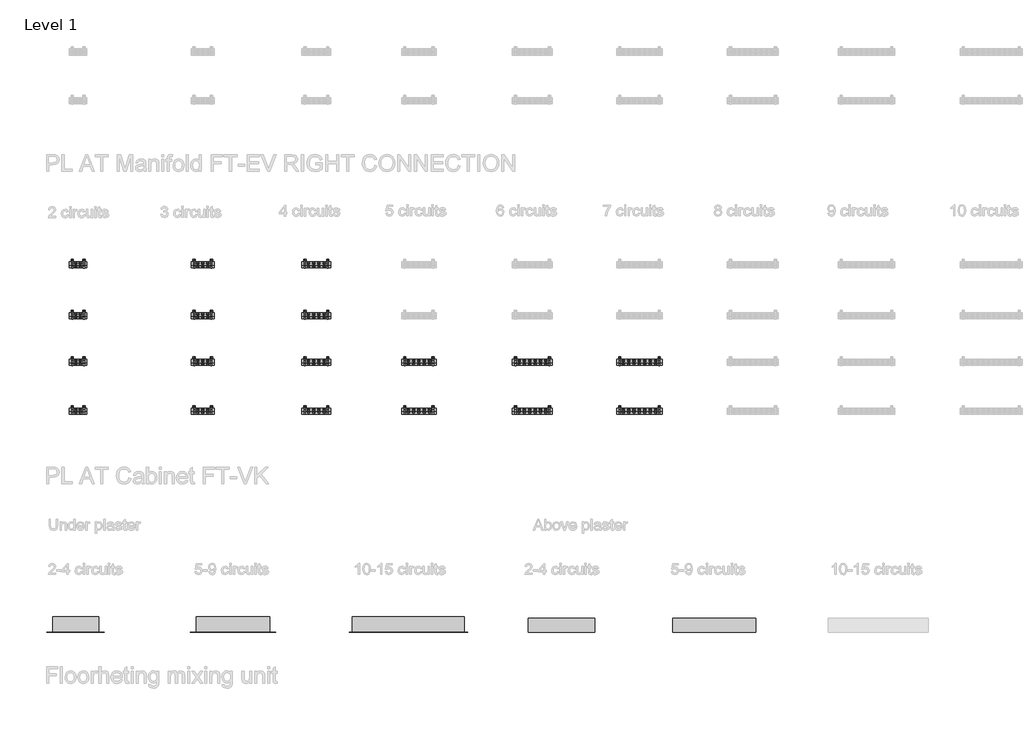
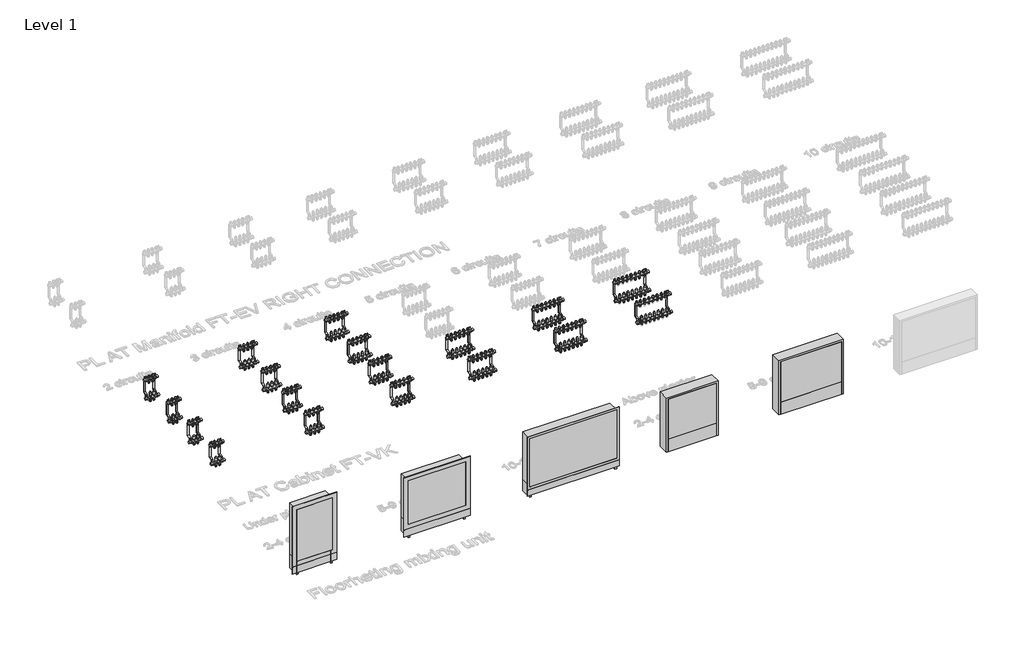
# One storey, part 1 of 23: 124 pipe fittings, 23 valves.
"""IFC4 building model written with IfcOpenShell, lengths in millimetres."""

from ifc_helpers import new_model, si_unit, origin, place, context, project, spatial, transform, mapped, element, save
from components import pipe_fitting_03c6499f, valve_7f0c1a37, valve_5e9e6dc7, valve_06e325c5, valve_a29cd3ca, valve_0794a25a, valve_64aa8ca1, valve_0c7f9d95, valve_02e7046f, valve_ee085975, valve_4b47ae93, valve_6665bde7, valve_1ec624e3, valve_313b45f7, valve_5bd855b2, valve_9806339d

model = new_model("IFC4")

# Units and contexts
model_context = context("Model", 3, world=origin())
ifc_project = project(units=[si_unit("LENGTHUNIT", "METRE", prefix="MILLI")], contexts=[model_context])

# Site, building, storey
site = spatial("IfcSite", under=ifc_project)
building = spatial("IfcBuilding", under=site)
storey = spatial("IfcBuildingStorey", under=building, Name="Level 1", Elevation=0.0)

# Pipe fittings
placement = place(None, origin())
pipe_fitting_shape = pipe_fitting_03c6499f(model_context)
element("IfcPipeFitting", 1, ObjectType="Euroconus screwing for multilayer pipes - Manifold FT : Euroconus screwing for multilayer pipes - Manifold FT", at=placement, inside=storey, context=model_context, shape_type="MappedRepresentation", body=[
    mapped(pipe_fitting_shape, transform((1334.9796862, -1164.6959314, 62.88733), x_axis=(0.0, 0.0, -1.0), y_axis=(0.0, 1.0000000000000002, 0.0), z_axis=(1.0000000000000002, 0.0, 0.0))),
])
element("IfcPipeFitting", 2, ObjectType="Euroconus screwing for multilayer pipes - Manifold FT : Euroconus screwing for multilayer pipes - Manifold FT", at=placement, inside=storey, context=model_context, shape_type="MappedRepresentation", body=[
    mapped(pipe_fitting_shape, transform((1334.9796862, -1139.6959314, 272.88733), x_axis=(0.0, 0.0, -1.0), y_axis=(0.0, 1.0000000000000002, 0.0), z_axis=(1.0000000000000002, 0.0, 0.0))),
])
element("IfcPipeFitting", 3, ObjectType="Euroconus screwing for multilayer pipes - Manifold FT : Euroconus screwing for multilayer pipes - Manifold FT", at=placement, inside=storey, context=model_context, shape_type="MappedRepresentation", body=[
    mapped(pipe_fitting_shape, transform((1292.9796862, -1164.6959314, 62.88733), x_axis=(0.0, 0.0, -1.0), y_axis=(0.0, 1.0000000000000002, 0.0), z_axis=(1.0000000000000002, 0.0, 0.0))),
])
element("IfcPipeFitting", 4, ObjectType="Euroconus screwing for multilayer pipes - Manifold FT : Euroconus screwing for multilayer pipes - Manifold FT", at=placement, inside=storey, context=model_context, shape_type="MappedRepresentation", body=[
    mapped(pipe_fitting_shape, transform((1292.9796862, -1139.6959314, 272.88733), x_axis=(0.0, 0.0, -1.0), y_axis=(0.0, 1.0000000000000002, 0.0), z_axis=(1.0000000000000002, 0.0, 0.0))),
])
element("IfcPipeFitting", 5, ObjectType="Euroconus screwing for multilayer pipes - Manifold FT : Euroconus screwing for multilayer pipes - Manifold FT", at=placement, inside=storey, context=model_context, shape_type="MappedRepresentation", body=[
    mapped(pipe_fitting_shape, transform((2438.9796862, -1164.6959314, 62.88733), x_axis=(0.0, 0.0, -1.0), y_axis=(0.0, 1.0000000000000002, 0.0), z_axis=(1.0000000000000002, 0.0, 0.0))),
])
element("IfcPipeFitting", 6, ObjectType="Euroconus screwing for multilayer pipes - Manifold FT : Euroconus screwing for multilayer pipes - Manifold FT", at=placement, inside=storey, context=model_context, shape_type="MappedRepresentation", body=[
    mapped(pipe_fitting_shape, transform((2484.9796862, -1164.6959314, 62.88733), x_axis=(0.0, 0.0, -1.0), y_axis=(0.0, 1.0000000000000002, 0.0), z_axis=(1.0000000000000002, 0.0, 0.0))),
])
element("IfcPipeFitting", 7, ObjectType="Euroconus screwing for multilayer pipes - Manifold FT : Euroconus screwing for multilayer pipes - Manifold FT", at=placement, inside=storey, context=model_context, shape_type="MappedRepresentation", body=[
    mapped(pipe_fitting_shape, transform((2438.9796862, -1139.6959314, 272.88733), x_axis=(0.0, 0.0, -1.0), y_axis=(0.0, 1.0000000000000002, 0.0), z_axis=(1.0000000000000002, 0.0, 0.0))),
])
element("IfcPipeFitting", 8, ObjectType="Euroconus screwing for multilayer pipes - Manifold FT : Euroconus screwing for multilayer pipes - Manifold FT", at=placement, inside=storey, context=model_context, shape_type="MappedRepresentation", body=[
    mapped(pipe_fitting_shape, transform((2484.9796862, -1139.6959314, 272.88733), x_axis=(0.0, 0.0, -1.0), y_axis=(0.0, 1.0000000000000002, 0.0), z_axis=(1.0000000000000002, 0.0, 0.0))),
])
element("IfcPipeFitting", 9, ObjectType="Euroconus screwing for multilayer pipes - Manifold FT : Euroconus screwing for multilayer pipes - Manifold FT", at=placement, inside=storey, context=model_context, shape_type="MappedRepresentation", body=[
    mapped(pipe_fitting_shape, transform((2392.9796862, -1164.6959314, 62.88733), x_axis=(0.0, 0.0, -1.0), y_axis=(0.0, 1.0000000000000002, 0.0), z_axis=(1.0000000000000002, 0.0, 0.0))),
])
element("IfcPipeFitting", 10, ObjectType="Euroconus screwing for multilayer pipes - Manifold FT : Euroconus screwing for multilayer pipes - Manifold FT", at=placement, inside=storey, context=model_context, shape_type="MappedRepresentation", body=[
    mapped(pipe_fitting_shape, transform((2392.9796862, -1139.6959314, 272.88733), x_axis=(0.0, 0.0, -1.0), y_axis=(0.0, 1.0000000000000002, 0.0), z_axis=(1.0000000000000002, 0.0, 0.0))),
])
element("IfcPipeFitting", 11, ObjectType="Euroconus screwing for multilayer pipes - Manifold FT : Euroconus screwing for multilayer pipes - Manifold FT", at=placement, inside=storey, context=model_context, shape_type="MappedRepresentation", body=[
    mapped(pipe_fitting_shape, transform((3487.6463528, -1164.6959314, 62.88733), x_axis=(0.0, 0.0, -1.0), y_axis=(0.0, 1.0000000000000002, 0.0), z_axis=(1.0000000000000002, 0.0, 0.0))),
])
element("IfcPipeFitting", 12, ObjectType="Euroconus screwing for multilayer pipes - Manifold FT : Euroconus screwing for multilayer pipes - Manifold FT", at=placement, inside=storey, context=model_context, shape_type="MappedRepresentation", body=[
    mapped(pipe_fitting_shape, transform((3440.3130195, -1164.6959314, 62.88733), x_axis=(0.0, 0.0, -1.0), y_axis=(0.0, 1.0000000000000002, 0.0), z_axis=(1.0000000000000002, 0.0, 0.0))),
])
element("IfcPipeFitting", 13, ObjectType="Euroconus screwing for multilayer pipes - Manifold FT : Euroconus screwing for multilayer pipes - Manifold FT", at=placement, inside=storey, context=model_context, shape_type="MappedRepresentation", body=[
    mapped(pipe_fitting_shape, transform((3534.9796862, -1164.6959314, 62.88733), x_axis=(0.0, 0.0, -1.0), y_axis=(0.0, 1.0000000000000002, 0.0), z_axis=(1.0000000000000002, 0.0, 0.0))),
])
element("IfcPipeFitting", 14, ObjectType="Euroconus screwing for multilayer pipes - Manifold FT : Euroconus screwing for multilayer pipes - Manifold FT", at=placement, inside=storey, context=model_context, shape_type="MappedRepresentation", body=[
    mapped(pipe_fitting_shape, transform((3487.6463528, -1139.6959314, 272.88733), x_axis=(0.0, 0.0, -1.0), y_axis=(0.0, 1.0000000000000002, 0.0), z_axis=(1.0000000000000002, 0.0, 0.0))),
])
element("IfcPipeFitting", 15, ObjectType="Euroconus screwing for multilayer pipes - Manifold FT : Euroconus screwing for multilayer pipes - Manifold FT", at=placement, inside=storey, context=model_context, shape_type="MappedRepresentation", body=[
    mapped(pipe_fitting_shape, transform((3440.3130195, -1139.6959314, 272.88733), x_axis=(0.0, 0.0, -1.0), y_axis=(0.0, 1.0000000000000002, 0.0), z_axis=(1.0000000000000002, 0.0, 0.0))),
])
element("IfcPipeFitting", 16, ObjectType="Euroconus screwing for multilayer pipes - Manifold FT : Euroconus screwing for multilayer pipes - Manifold FT", at=placement, inside=storey, context=model_context, shape_type="MappedRepresentation", body=[
    mapped(pipe_fitting_shape, transform((3534.9796862, -1139.6959314, 272.88733), x_axis=(0.0, 0.0, -1.0), y_axis=(0.0, 1.0000000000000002, 0.0), z_axis=(1.0000000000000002, 0.0, 0.0))),
])
element("IfcPipeFitting", 17, ObjectType="Euroconus screwing for multilayer pipes - Manifold FT : Euroconus screwing for multilayer pipes - Manifold FT", at=placement, inside=storey, context=model_context, shape_type="MappedRepresentation", body=[
    mapped(pipe_fitting_shape, transform((3392.9796862, -1164.6959314, 62.88733), x_axis=(0.0, 0.0, -1.0), y_axis=(0.0, 1.0000000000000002, 0.0), z_axis=(1.0000000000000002, 0.0, 0.0))),
])
element("IfcPipeFitting", 18, ObjectType="Euroconus screwing for multilayer pipes - Manifold FT : Euroconus screwing for multilayer pipes - Manifold FT", at=placement, inside=storey, context=model_context, shape_type="MappedRepresentation", body=[
    mapped(pipe_fitting_shape, transform((3392.9796862, -1139.6959314, 272.88733), x_axis=(0.0, 0.0, -1.0), y_axis=(0.0, 1.0000000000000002, 0.0), z_axis=(1.0000000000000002, 0.0, 0.0))),
])
element("IfcPipeFitting", 19, ObjectType="Euroconus screwing for multilayer pipes - Manifold FT : Euroconus screwing for multilayer pipes - Manifold FT", at=placement, inside=storey, context=model_context, shape_type="MappedRepresentation", body=[
    mapped(pipe_fitting_shape, transform((1334.9796862, -1624.6959314, 62.88733), x_axis=(0.0, 0.0, -1.0), y_axis=(0.0, 1.0000000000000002, 0.0), z_axis=(1.0000000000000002, 0.0, 0.0))),
])
element("IfcPipeFitting", 20, ObjectType="Euroconus screwing for multilayer pipes - Manifold FT : Euroconus screwing for multilayer pipes - Manifold FT", at=placement, inside=storey, context=model_context, shape_type="MappedRepresentation", body=[
    mapped(pipe_fitting_shape, transform((1334.9796862, -1599.6959314, 272.88733), x_axis=(0.0, 0.0, -1.0), y_axis=(0.0, 1.0000000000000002, 0.0), z_axis=(1.0000000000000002, 0.0, 0.0))),
])
element("IfcPipeFitting", 21, ObjectType="Euroconus screwing for multilayer pipes - Manifold FT : Euroconus screwing for multilayer pipes - Manifold FT", at=placement, inside=storey, context=model_context, shape_type="MappedRepresentation", body=[
    mapped(pipe_fitting_shape, transform((1292.9796862, -1624.6959314, 62.88733), x_axis=(0.0, 0.0, -1.0), y_axis=(0.0, 1.0000000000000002, 0.0), z_axis=(1.0000000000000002, 0.0, 0.0))),
])
element("IfcPipeFitting", 22, ObjectType="Euroconus screwing for multilayer pipes - Manifold FT : Euroconus screwing for multilayer pipes - Manifold FT", at=placement, inside=storey, context=model_context, shape_type="MappedRepresentation", body=[
    mapped(pipe_fitting_shape, transform((1292.9796862, -1599.6959314, 272.88733), x_axis=(0.0, 0.0, -1.0), y_axis=(0.0, 1.0000000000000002, 0.0), z_axis=(1.0000000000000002, 0.0, 0.0))),
])
element("IfcPipeFitting", 23, ObjectType="Euroconus screwing for multilayer pipes - Manifold FT : Euroconus screwing for multilayer pipes - Manifold FT", at=placement, inside=storey, context=model_context, shape_type="MappedRepresentation", body=[
    mapped(pipe_fitting_shape, transform((2438.9796862, -1624.6959314, 62.88733), x_axis=(0.0, 0.0, -1.0), y_axis=(0.0, 1.0000000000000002, 0.0), z_axis=(1.0000000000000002, 0.0, 0.0))),
])
element("IfcPipeFitting", 24, ObjectType="Euroconus screwing for multilayer pipes - Manifold FT : Euroconus screwing for multilayer pipes - Manifold FT", at=placement, inside=storey, context=model_context, shape_type="MappedRepresentation", body=[
    mapped(pipe_fitting_shape, transform((2484.9796862, -1624.6959314, 62.88733), x_axis=(0.0, 0.0, -1.0), y_axis=(0.0, 1.0000000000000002, 0.0), z_axis=(1.0000000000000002, 0.0, 0.0))),
])
element("IfcPipeFitting", 25, ObjectType="Euroconus screwing for multilayer pipes - Manifold FT : Euroconus screwing for multilayer pipes - Manifold FT", at=placement, inside=storey, context=model_context, shape_type="MappedRepresentation", body=[
    mapped(pipe_fitting_shape, transform((2438.9796862, -1599.6959314, 272.88733), x_axis=(0.0, 0.0, -1.0), y_axis=(0.0, 1.0000000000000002, 0.0), z_axis=(1.0000000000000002, 0.0, 0.0))),
])
element("IfcPipeFitting", 26, ObjectType="Euroconus screwing for multilayer pipes - Manifold FT : Euroconus screwing for multilayer pipes - Manifold FT", at=placement, inside=storey, context=model_context, shape_type="MappedRepresentation", body=[
    mapped(pipe_fitting_shape, transform((2484.9796862, -1599.6959314, 272.88733), x_axis=(0.0, 0.0, -1.0), y_axis=(0.0, 1.0000000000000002, 0.0), z_axis=(1.0000000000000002, 0.0, 0.0))),
])
element("IfcPipeFitting", 27, ObjectType="Euroconus screwing for multilayer pipes - Manifold FT : Euroconus screwing for multilayer pipes - Manifold FT", at=placement, inside=storey, context=model_context, shape_type="MappedRepresentation", body=[
    mapped(pipe_fitting_shape, transform((2392.9796862, -1624.6959314, 62.88733), x_axis=(0.0, 0.0, -1.0), y_axis=(0.0, 1.0000000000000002, 0.0), z_axis=(1.0000000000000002, 0.0, 0.0))),
])
element("IfcPipeFitting", 28, ObjectType="Euroconus screwing for multilayer pipes - Manifold FT : Euroconus screwing for multilayer pipes - Manifold FT", at=placement, inside=storey, context=model_context, shape_type="MappedRepresentation", body=[
    mapped(pipe_fitting_shape, transform((2392.9796862, -1599.6959314, 272.88733), x_axis=(0.0, 0.0, -1.0), y_axis=(0.0, 1.0000000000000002, 0.0), z_axis=(1.0000000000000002, 0.0, 0.0))),
])
element("IfcPipeFitting", 29, ObjectType="Euroconus screwing for multilayer pipes - Manifold FT : Euroconus screwing for multilayer pipes - Manifold FT", at=placement, inside=storey, context=model_context, shape_type="MappedRepresentation", body=[
    mapped(pipe_fitting_shape, transform((3487.6463528, -1624.6959314, 62.88733), x_axis=(0.0, 0.0, -1.0), y_axis=(0.0, 1.0000000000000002, 0.0), z_axis=(1.0000000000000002, 0.0, 0.0))),
])
element("IfcPipeFitting", 30, ObjectType="Euroconus screwing for multilayer pipes - Manifold FT : Euroconus screwing for multilayer pipes - Manifold FT", at=placement, inside=storey, context=model_context, shape_type="MappedRepresentation", body=[
    mapped(pipe_fitting_shape, transform((3440.3130195, -1624.6959314, 62.88733), x_axis=(0.0, 0.0, -1.0), y_axis=(0.0, 1.0000000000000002, 0.0), z_axis=(1.0000000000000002, 0.0, 0.0))),
])
element("IfcPipeFitting", 31, ObjectType="Euroconus screwing for multilayer pipes - Manifold FT : Euroconus screwing for multilayer pipes - Manifold FT", at=placement, inside=storey, context=model_context, shape_type="MappedRepresentation", body=[
    mapped(pipe_fitting_shape, transform((3534.9796862, -1624.6959314, 62.88733), x_axis=(0.0, 0.0, -1.0), y_axis=(0.0, 1.0000000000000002, 0.0), z_axis=(1.0000000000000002, 0.0, 0.0))),
])
element("IfcPipeFitting", 32, ObjectType="Euroconus screwing for multilayer pipes - Manifold FT : Euroconus screwing for multilayer pipes - Manifold FT", at=placement, inside=storey, context=model_context, shape_type="MappedRepresentation", body=[
    mapped(pipe_fitting_shape, transform((3487.6463528, -1599.6959314, 272.88733), x_axis=(0.0, 0.0, -1.0), y_axis=(0.0, 1.0000000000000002, 0.0), z_axis=(1.0000000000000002, 0.0, 0.0))),
])
element("IfcPipeFitting", 33, ObjectType="Euroconus screwing for multilayer pipes - Manifold FT : Euroconus screwing for multilayer pipes - Manifold FT", at=placement, inside=storey, context=model_context, shape_type="MappedRepresentation", body=[
    mapped(pipe_fitting_shape, transform((3440.3130195, -1599.6959314, 272.88733), x_axis=(0.0, 0.0, -1.0), y_axis=(0.0, 1.0000000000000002, 0.0), z_axis=(1.0000000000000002, 0.0, 0.0))),
])
element("IfcPipeFitting", 34, ObjectType="Euroconus screwing for multilayer pipes - Manifold FT : Euroconus screwing for multilayer pipes - Manifold FT", at=placement, inside=storey, context=model_context, shape_type="MappedRepresentation", body=[
    mapped(pipe_fitting_shape, transform((3534.9796862, -1599.6959314, 272.88733), x_axis=(0.0, 0.0, -1.0), y_axis=(0.0, 1.0000000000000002, 0.0), z_axis=(1.0000000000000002, 0.0, 0.0))),
])
element("IfcPipeFitting", 35, ObjectType="Euroconus screwing for multilayer pipes - Manifold FT : Euroconus screwing for multilayer pipes - Manifold FT", at=placement, inside=storey, context=model_context, shape_type="MappedRepresentation", body=[
    mapped(pipe_fitting_shape, transform((3392.9796862, -1624.6959314, 62.88733), x_axis=(0.0, 0.0, -1.0), y_axis=(0.0, 1.0000000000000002, 0.0), z_axis=(1.0000000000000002, 0.0, 0.0))),
])
element("IfcPipeFitting", 36, ObjectType="Euroconus screwing for multilayer pipes - Manifold FT : Euroconus screwing for multilayer pipes - Manifold FT", at=placement, inside=storey, context=model_context, shape_type="MappedRepresentation", body=[
    mapped(pipe_fitting_shape, transform((3392.9796862, -1599.6959314, 272.88733), x_axis=(0.0, 0.0, -1.0), y_axis=(0.0, 1.0000000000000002, 0.0), z_axis=(1.0000000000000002, 0.0, 0.0))),
])
element("IfcPipeFitting", 37, ObjectType="Euroconus screwing for multilayer pipes - Manifold FT : Euroconus screwing for multilayer pipes - Manifold FT", at=placement, inside=storey, context=model_context, shape_type="MappedRepresentation", body=[
    mapped(pipe_fitting_shape, transform((1334.9796862, -2044.6959314, 62.88733), x_axis=(0.0, 0.0, -1.0), y_axis=(0.0, 1.0000000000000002, 0.0), z_axis=(1.0000000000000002, 0.0, 0.0))),
])
element("IfcPipeFitting", 38, ObjectType="Euroconus screwing for multilayer pipes - Manifold FT : Euroconus screwing for multilayer pipes - Manifold FT", at=placement, inside=storey, context=model_context, shape_type="MappedRepresentation", body=[
    mapped(pipe_fitting_shape, transform((1334.9796862, -2019.6959314, 272.88733), x_axis=(0.0, 0.0, -1.0), y_axis=(0.0, 1.0000000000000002, 0.0), z_axis=(1.0000000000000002, 0.0, 0.0))),
])
element("IfcPipeFitting", 39, ObjectType="Euroconus screwing for multilayer pipes - Manifold FT : Euroconus screwing for multilayer pipes - Manifold FT", at=placement, inside=storey, context=model_context, shape_type="MappedRepresentation", body=[
    mapped(pipe_fitting_shape, transform((1292.9796862, -2044.6959314, 62.88733), x_axis=(0.0, 0.0, -1.0), y_axis=(0.0, 1.0000000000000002, 0.0), z_axis=(1.0000000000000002, 0.0, 0.0))),
])
element("IfcPipeFitting", 40, ObjectType="Euroconus screwing for multilayer pipes - Manifold FT : Euroconus screwing for multilayer pipes - Manifold FT", at=placement, inside=storey, context=model_context, shape_type="MappedRepresentation", body=[
    mapped(pipe_fitting_shape, transform((1292.9796862, -2019.6959314, 272.88733), x_axis=(0.0, 0.0, -1.0), y_axis=(0.0, 1.0000000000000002, 0.0), z_axis=(1.0000000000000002, 0.0, 0.0))),
])
element("IfcPipeFitting", 41, ObjectType="Euroconus screwing for multilayer pipes - Manifold FT : Euroconus screwing for multilayer pipes - Manifold FT", at=placement, inside=storey, context=model_context, shape_type="MappedRepresentation", body=[
    mapped(pipe_fitting_shape, transform((2438.9796862, -2044.6959314, 62.88733), x_axis=(0.0, 0.0, -1.0), y_axis=(0.0, 1.0000000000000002, 0.0), z_axis=(1.0000000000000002, 0.0, 0.0))),
])
element("IfcPipeFitting", 42, ObjectType="Euroconus screwing for multilayer pipes - Manifold FT : Euroconus screwing for multilayer pipes - Manifold FT", at=placement, inside=storey, context=model_context, shape_type="MappedRepresentation", body=[
    mapped(pipe_fitting_shape, transform((2484.9796862, -2044.6959314, 62.88733), x_axis=(0.0, 0.0, -1.0), y_axis=(0.0, 1.0000000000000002, 0.0), z_axis=(1.0000000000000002, 0.0, 0.0))),
])
element("IfcPipeFitting", 43, ObjectType="Euroconus screwing for multilayer pipes - Manifold FT : Euroconus screwing for multilayer pipes - Manifold FT", at=placement, inside=storey, context=model_context, shape_type="MappedRepresentation", body=[
    mapped(pipe_fitting_shape, transform((2438.9796862, -2019.6959314, 272.88733), x_axis=(0.0, 0.0, -1.0), y_axis=(0.0, 1.0000000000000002, 0.0), z_axis=(1.0000000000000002, 0.0, 0.0))),
])
element("IfcPipeFitting", 44, ObjectType="Euroconus screwing for multilayer pipes - Manifold FT : Euroconus screwing for multilayer pipes - Manifold FT", at=placement, inside=storey, context=model_context, shape_type="MappedRepresentation", body=[
    mapped(pipe_fitting_shape, transform((2484.9796862, -2019.6959314, 272.88733), x_axis=(0.0, 0.0, -1.0), y_axis=(0.0, 1.0000000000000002, 0.0), z_axis=(1.0000000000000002, 0.0, 0.0))),
])
element("IfcPipeFitting", 45, ObjectType="Euroconus screwing for multilayer pipes - Manifold FT : Euroconus screwing for multilayer pipes - Manifold FT", at=placement, inside=storey, context=model_context, shape_type="MappedRepresentation", body=[
    mapped(pipe_fitting_shape, transform((2392.9796862, -2044.6959314, 62.88733), x_axis=(0.0, 0.0, -1.0), y_axis=(0.0, 1.0000000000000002, 0.0), z_axis=(1.0000000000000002, 0.0, 0.0))),
])
element("IfcPipeFitting", 46, ObjectType="Euroconus screwing for multilayer pipes - Manifold FT : Euroconus screwing for multilayer pipes - Manifold FT", at=placement, inside=storey, context=model_context, shape_type="MappedRepresentation", body=[
    mapped(pipe_fitting_shape, transform((2392.9796862, -2019.6959314, 272.88733), x_axis=(0.0, 0.0, -1.0), y_axis=(0.0, 1.0000000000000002, 0.0), z_axis=(1.0000000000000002, 0.0, 0.0))),
])
element("IfcPipeFitting", 47, ObjectType="Euroconus screwing for multilayer pipes - Manifold FT : Euroconus screwing for multilayer pipes - Manifold FT", at=placement, inside=storey, context=model_context, shape_type="MappedRepresentation", body=[
    mapped(pipe_fitting_shape, transform((3487.6463528, -2044.6959314, 62.88733), x_axis=(0.0, 0.0, -1.0), y_axis=(0.0, 1.0000000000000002, 0.0), z_axis=(1.0000000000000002, 0.0, 0.0))),
])
element("IfcPipeFitting", 48, ObjectType="Euroconus screwing for multilayer pipes - Manifold FT : Euroconus screwing for multilayer pipes - Manifold FT", at=placement, inside=storey, context=model_context, shape_type="MappedRepresentation", body=[
    mapped(pipe_fitting_shape, transform((3440.3130195, -2044.6959314, 62.88733), x_axis=(0.0, 0.0, -1.0), y_axis=(0.0, 1.0000000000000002, 0.0), z_axis=(1.0000000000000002, 0.0, 0.0))),
])
element("IfcPipeFitting", 49, ObjectType="Euroconus screwing for multilayer pipes - Manifold FT : Euroconus screwing for multilayer pipes - Manifold FT", at=placement, inside=storey, context=model_context, shape_type="MappedRepresentation", body=[
    mapped(pipe_fitting_shape, transform((3534.9796862, -2044.6959314, 62.88733), x_axis=(0.0, 0.0, -1.0), y_axis=(0.0, 1.0000000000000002, 0.0), z_axis=(1.0000000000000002, 0.0, 0.0))),
])
element("IfcPipeFitting", 50, ObjectType="Euroconus screwing for multilayer pipes - Manifold FT : Euroconus screwing for multilayer pipes - Manifold FT", at=placement, inside=storey, context=model_context, shape_type="MappedRepresentation", body=[
    mapped(pipe_fitting_shape, transform((3487.6463528, -2019.6959314, 272.88733), x_axis=(0.0, 0.0, -1.0), y_axis=(0.0, 1.0000000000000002, 0.0), z_axis=(1.0000000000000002, 0.0, 0.0))),
])
element("IfcPipeFitting", 51, ObjectType="Euroconus screwing for multilayer pipes - Manifold FT : Euroconus screwing for multilayer pipes - Manifold FT", at=placement, inside=storey, context=model_context, shape_type="MappedRepresentation", body=[
    mapped(pipe_fitting_shape, transform((3440.3130195, -2019.6959314, 272.88733), x_axis=(0.0, 0.0, -1.0), y_axis=(0.0, 1.0000000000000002, 0.0), z_axis=(1.0000000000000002, 0.0, 0.0))),
])
element("IfcPipeFitting", 52, ObjectType="Euroconus screwing for multilayer pipes - Manifold FT : Euroconus screwing for multilayer pipes - Manifold FT", at=placement, inside=storey, context=model_context, shape_type="MappedRepresentation", body=[
    mapped(pipe_fitting_shape, transform((3534.9796862, -2019.6959314, 272.88733), x_axis=(0.0, 0.0, -1.0), y_axis=(0.0, 1.0000000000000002, 0.0), z_axis=(1.0000000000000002, 0.0, 0.0))),
])
element("IfcPipeFitting", 53, ObjectType="Euroconus screwing for multilayer pipes - Manifold FT : Euroconus screwing for multilayer pipes - Manifold FT", at=placement, inside=storey, context=model_context, shape_type="MappedRepresentation", body=[
    mapped(pipe_fitting_shape, transform((3392.9796862, -2044.6959314, 62.88733), x_axis=(0.0, 0.0, -1.0), y_axis=(0.0, 1.0000000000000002, 0.0), z_axis=(1.0000000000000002, 0.0, 0.0))),
])
element("IfcPipeFitting", 54, ObjectType="Euroconus screwing for multilayer pipes - Manifold FT : Euroconus screwing for multilayer pipes - Manifold FT", at=placement, inside=storey, context=model_context, shape_type="MappedRepresentation", body=[
    mapped(pipe_fitting_shape, transform((3392.9796862, -2019.6959314, 272.88733), x_axis=(0.0, 0.0, -1.0), y_axis=(0.0, 1.0000000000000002, 0.0), z_axis=(1.0000000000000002, 0.0, 0.0))),
])
element("IfcPipeFitting", 55, ObjectType="Euroconus screwing for multilayer pipes - Manifold FT : Euroconus screwing for multilayer pipes - Manifold FT", at=placement, inside=storey, context=model_context, shape_type="MappedRepresentation", body=[
    mapped(pipe_fitting_shape, transform((4436.9796862, -2044.6959314, 62.88733), x_axis=(0.0, 0.0, -1.0), y_axis=(0.0, 1.0000000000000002, 0.0), z_axis=(1.0000000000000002, 0.0, 0.0))),
])
element("IfcPipeFitting", 56, ObjectType="Euroconus screwing for multilayer pipes - Manifold FT : Euroconus screwing for multilayer pipes - Manifold FT", at=placement, inside=storey, context=model_context, shape_type="MappedRepresentation", body=[
    mapped(pipe_fitting_shape, transform((4388.9796862, -2044.6959314, 62.88733), x_axis=(0.0, 0.0, -1.0), y_axis=(0.0, 1.0000000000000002, 0.0), z_axis=(1.0000000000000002, 0.0, 0.0))),
])
element("IfcPipeFitting", 57, ObjectType="Euroconus screwing for multilayer pipes - Manifold FT : Euroconus screwing for multilayer pipes - Manifold FT", at=placement, inside=storey, context=model_context, shape_type="MappedRepresentation", body=[
    mapped(pipe_fitting_shape, transform((4340.9796862, -2044.6959314, 62.88733), x_axis=(0.0, 0.0, -1.0), y_axis=(0.0, 1.0000000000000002, 0.0), z_axis=(1.0000000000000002, 0.0, 0.0))),
])
element("IfcPipeFitting", 58, ObjectType="Euroconus screwing for multilayer pipes - Manifold FT : Euroconus screwing for multilayer pipes - Manifold FT", at=placement, inside=storey, context=model_context, shape_type="MappedRepresentation", body=[
    mapped(pipe_fitting_shape, transform((4484.9796862, -2044.6959314, 62.88733), x_axis=(0.0, 0.0, -1.0), y_axis=(0.0, 1.0000000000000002, 0.0), z_axis=(1.0000000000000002, 0.0, 0.0))),
])
element("IfcPipeFitting", 59, ObjectType="Euroconus screwing for multilayer pipes - Manifold FT : Euroconus screwing for multilayer pipes - Manifold FT", at=placement, inside=storey, context=model_context, shape_type="MappedRepresentation", body=[
    mapped(pipe_fitting_shape, transform((4436.9796862, -2019.6959314, 272.88733), x_axis=(0.0, 0.0, -1.0), y_axis=(0.0, 1.0000000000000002, 0.0), z_axis=(1.0000000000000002, 0.0, 0.0))),
])
element("IfcPipeFitting", 60, ObjectType="Euroconus screwing for multilayer pipes - Manifold FT : Euroconus screwing for multilayer pipes - Manifold FT", at=placement, inside=storey, context=model_context, shape_type="MappedRepresentation", body=[
    mapped(pipe_fitting_shape, transform((4388.9796862, -2019.6959314, 272.88733), x_axis=(0.0, 0.0, -1.0), y_axis=(0.0, 1.0000000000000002, 0.0), z_axis=(1.0000000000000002, 0.0, 0.0))),
])
element("IfcPipeFitting", 61, ObjectType="Euroconus screwing for multilayer pipes - Manifold FT : Euroconus screwing for multilayer pipes - Manifold FT", at=placement, inside=storey, context=model_context, shape_type="MappedRepresentation", body=[
    mapped(pipe_fitting_shape, transform((4340.9796862, -2019.6959314, 272.88733), x_axis=(0.0, 0.0, -1.0), y_axis=(0.0, 1.0000000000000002, 0.0), z_axis=(1.0000000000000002, 0.0, 0.0))),
])
element("IfcPipeFitting", 62, ObjectType="Euroconus screwing for multilayer pipes - Manifold FT : Euroconus screwing for multilayer pipes - Manifold FT", at=placement, inside=storey, context=model_context, shape_type="MappedRepresentation", body=[
    mapped(pipe_fitting_shape, transform((4484.9796862, -2019.6959314, 272.88733), x_axis=(0.0, 0.0, -1.0), y_axis=(0.0, 1.0000000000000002, 0.0), z_axis=(1.0000000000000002, 0.0, 0.0))),
])
element("IfcPipeFitting", 63, ObjectType="Euroconus screwing for multilayer pipes - Manifold FT : Euroconus screwing for multilayer pipes - Manifold FT", at=placement, inside=storey, context=model_context, shape_type="MappedRepresentation", body=[
    mapped(pipe_fitting_shape, transform((4292.9796862, -2044.6959314, 62.88733), x_axis=(0.0, 0.0, -1.0), y_axis=(0.0, 1.0000000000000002, 0.0), z_axis=(1.0000000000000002, 0.0, 0.0))),
])
element("IfcPipeFitting", 64, ObjectType="Euroconus screwing for multilayer pipes - Manifold FT : Euroconus screwing for multilayer pipes - Manifold FT", at=placement, inside=storey, context=model_context, shape_type="MappedRepresentation", body=[
    mapped(pipe_fitting_shape, transform((4292.9796862, -2019.6959314, 272.88733), x_axis=(0.0, 0.0, -1.0), y_axis=(0.0, 1.0000000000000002, 0.0), z_axis=(1.0000000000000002, 0.0, 0.0))),
])
element("IfcPipeFitting", 65, ObjectType="Euroconus screwing for multilayer pipes - Manifold FT : Euroconus screwing for multilayer pipes - Manifold FT", at=placement, inside=storey, context=model_context, shape_type="MappedRepresentation", body=[
    mapped(pipe_fitting_shape, transform((5486.5796862, -2044.6959314, 62.88733), x_axis=(0.0, 0.0, -1.0), y_axis=(0.0, 1.0000000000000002, 0.0), z_axis=(1.0000000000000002, 0.0, 0.0))),
])
element("IfcPipeFitting", 66, ObjectType="Euroconus screwing for multilayer pipes - Manifold FT : Euroconus screwing for multilayer pipes - Manifold FT", at=placement, inside=storey, context=model_context, shape_type="MappedRepresentation", body=[
    mapped(pipe_fitting_shape, transform((5438.1796862, -2044.6959314, 62.88733), x_axis=(0.0, 0.0, -1.0), y_axis=(0.0, 1.0000000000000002, 0.0), z_axis=(1.0000000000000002, 0.0, 0.0))),
])
element("IfcPipeFitting", 67, ObjectType="Euroconus screwing for multilayer pipes - Manifold FT : Euroconus screwing for multilayer pipes - Manifold FT", at=placement, inside=storey, context=model_context, shape_type="MappedRepresentation", body=[
    mapped(pipe_fitting_shape, transform((5389.7796862, -2044.6959314, 62.88733), x_axis=(0.0, 0.0, -1.0), y_axis=(0.0, 1.0000000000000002, 0.0), z_axis=(1.0000000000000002, 0.0, 0.0))),
])
element("IfcPipeFitting", 68, ObjectType="Euroconus screwing for multilayer pipes - Manifold FT : Euroconus screwing for multilayer pipes - Manifold FT", at=placement, inside=storey, context=model_context, shape_type="MappedRepresentation", body=[
    mapped(pipe_fitting_shape, transform((5341.3796862, -2044.6959314, 62.88733), x_axis=(0.0, 0.0, -1.0), y_axis=(0.0, 1.0000000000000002, 0.0), z_axis=(1.0000000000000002, 0.0, 0.0))),
])
element("IfcPipeFitting", 69, ObjectType="Euroconus screwing for multilayer pipes - Manifold FT : Euroconus screwing for multilayer pipes - Manifold FT", at=placement, inside=storey, context=model_context, shape_type="MappedRepresentation", body=[
    mapped(pipe_fitting_shape, transform((5534.9796862, -2044.6959314, 62.88733), x_axis=(0.0, 0.0, -1.0), y_axis=(0.0, 1.0000000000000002, 0.0), z_axis=(1.0000000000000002, 0.0, 0.0))),
])
element("IfcPipeFitting", 70, ObjectType="Euroconus screwing for multilayer pipes - Manifold FT : Euroconus screwing for multilayer pipes - Manifold FT", at=placement, inside=storey, context=model_context, shape_type="MappedRepresentation", body=[
    mapped(pipe_fitting_shape, transform((5486.5796862, -2019.6959314, 272.88733), x_axis=(0.0, 0.0, -1.0), y_axis=(0.0, 1.0000000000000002, 0.0), z_axis=(1.0000000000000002, 0.0, 0.0))),
])
element("IfcPipeFitting", 71, ObjectType="Euroconus screwing for multilayer pipes - Manifold FT : Euroconus screwing for multilayer pipes - Manifold FT", at=placement, inside=storey, context=model_context, shape_type="MappedRepresentation", body=[
    mapped(pipe_fitting_shape, transform((5438.1796862, -2019.6959314, 272.88733), x_axis=(0.0, 0.0, -1.0), y_axis=(0.0, 1.0000000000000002, 0.0), z_axis=(1.0000000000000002, 0.0, 0.0))),
])
element("IfcPipeFitting", 72, ObjectType="Euroconus screwing for multilayer pipes - Manifold FT : Euroconus screwing for multilayer pipes - Manifold FT", at=placement, inside=storey, context=model_context, shape_type="MappedRepresentation", body=[
    mapped(pipe_fitting_shape, transform((5389.7796862, -2019.6959314, 272.88733), x_axis=(0.0, 0.0, -1.0), y_axis=(0.0, 1.0000000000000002, 0.0), z_axis=(1.0000000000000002, 0.0, 0.0))),
])
element("IfcPipeFitting", 73, ObjectType="Euroconus screwing for multilayer pipes - Manifold FT : Euroconus screwing for multilayer pipes - Manifold FT", at=placement, inside=storey, context=model_context, shape_type="MappedRepresentation", body=[
    mapped(pipe_fitting_shape, transform((5341.3796862, -2019.6959314, 272.88733), x_axis=(0.0, 0.0, -1.0), y_axis=(0.0, 1.0000000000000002, 0.0), z_axis=(1.0000000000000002, 0.0, 0.0))),
])
element("IfcPipeFitting", 74, ObjectType="Euroconus screwing for multilayer pipes - Manifold FT : Euroconus screwing for multilayer pipes - Manifold FT", at=placement, inside=storey, context=model_context, shape_type="MappedRepresentation", body=[
    mapped(pipe_fitting_shape, transform((5534.9796862, -2019.6959314, 272.88733), x_axis=(0.0, 0.0, -1.0), y_axis=(0.0, 1.0000000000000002, 0.0), z_axis=(1.0000000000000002, 0.0, 0.0))),
])
element("IfcPipeFitting", 75, ObjectType="Euroconus screwing for multilayer pipes - Manifold FT : Euroconus screwing for multilayer pipes - Manifold FT", at=placement, inside=storey, context=model_context, shape_type="MappedRepresentation", body=[
    mapped(pipe_fitting_shape, transform((5292.9796862, -2044.6959314, 62.88733), x_axis=(0.0, 0.0, -1.0), y_axis=(0.0, 1.0000000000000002, 0.0), z_axis=(1.0000000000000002, 0.0, 0.0))),
])
element("IfcPipeFitting", 76, ObjectType="Euroconus screwing for multilayer pipes - Manifold FT : Euroconus screwing for multilayer pipes - Manifold FT", at=placement, inside=storey, context=model_context, shape_type="MappedRepresentation", body=[
    mapped(pipe_fitting_shape, transform((5292.9796862, -2019.6959314, 272.88733), x_axis=(0.0, 0.0, -1.0), y_axis=(0.0, 1.0000000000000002, 0.0), z_axis=(1.0000000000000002, 0.0, 0.0))),
])
element("IfcPipeFitting", 77, ObjectType="Euroconus screwing for multilayer pipes - Manifold FT : Euroconus screwing for multilayer pipes - Manifold FT", at=placement, inside=storey, context=model_context, shape_type="MappedRepresentation", body=[
    mapped(pipe_fitting_shape, transform((6476.3130195, -2044.6959314, 62.88733), x_axis=(0.0, 0.0, -1.0), y_axis=(0.0, 1.0000000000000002, 0.0), z_axis=(1.0000000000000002, 0.0, 0.0))),
])
element("IfcPipeFitting", 78, ObjectType="Euroconus screwing for multilayer pipes - Manifold FT : Euroconus screwing for multilayer pipes - Manifold FT", at=placement, inside=storey, context=model_context, shape_type="MappedRepresentation", body=[
    mapped(pipe_fitting_shape, transform((6427.6463528, -2044.6959314, 62.88733), x_axis=(0.0, 0.0, -1.0), y_axis=(0.0, 1.0000000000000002, 0.0), z_axis=(1.0000000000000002, 0.0, 0.0))),
])
element("IfcPipeFitting", 79, ObjectType="Euroconus screwing for multilayer pipes - Manifold FT : Euroconus screwing for multilayer pipes - Manifold FT", at=placement, inside=storey, context=model_context, shape_type="MappedRepresentation", body=[
    mapped(pipe_fitting_shape, transform((6378.9796862, -2044.6959314, 62.88733), x_axis=(0.0, 0.0, -1.0), y_axis=(0.0, 1.0000000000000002, 0.0), z_axis=(1.0000000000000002, 0.0, 0.0))),
])
element("IfcPipeFitting", 80, ObjectType="Euroconus screwing for multilayer pipes - Manifold FT : Euroconus screwing for multilayer pipes - Manifold FT", at=placement, inside=storey, context=model_context, shape_type="MappedRepresentation", body=[
    mapped(pipe_fitting_shape, transform((6330.3130195, -2044.6959314, 62.88733), x_axis=(0.0, 0.0, -1.0), y_axis=(0.0, 1.0000000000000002, 0.0), z_axis=(1.0000000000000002, 0.0, 0.0))),
])
element("IfcPipeFitting", 81, ObjectType="Euroconus screwing for multilayer pipes - Manifold FT : Euroconus screwing for multilayer pipes - Manifold FT", at=placement, inside=storey, context=model_context, shape_type="MappedRepresentation", body=[
    mapped(pipe_fitting_shape, transform((6281.6463528, -2044.6959314, 62.88733), x_axis=(0.0, 0.0, -1.0), y_axis=(0.0, 1.0000000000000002, 0.0), z_axis=(1.0000000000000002, 0.0, 0.0))),
])
element("IfcPipeFitting", 82, ObjectType="Euroconus screwing for multilayer pipes - Manifold FT : Euroconus screwing for multilayer pipes - Manifold FT", at=placement, inside=storey, context=model_context, shape_type="MappedRepresentation", body=[
    mapped(pipe_fitting_shape, transform((6524.9796862, -2044.6959314, 62.88733), x_axis=(0.0, 0.0, -1.0), y_axis=(0.0, 1.0000000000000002, 0.0), z_axis=(1.0000000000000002, 0.0, 0.0))),
])
element("IfcPipeFitting", 83, ObjectType="Euroconus screwing for multilayer pipes - Manifold FT : Euroconus screwing for multilayer pipes - Manifold FT", at=placement, inside=storey, context=model_context, shape_type="MappedRepresentation", body=[
    mapped(pipe_fitting_shape, transform((6476.3130195, -2019.6959314, 272.88733), x_axis=(0.0, 0.0, -1.0), y_axis=(0.0, 1.0000000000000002, 0.0), z_axis=(1.0000000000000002, 0.0, 0.0))),
])
element("IfcPipeFitting", 84, ObjectType="Euroconus screwing for multilayer pipes - Manifold FT : Euroconus screwing for multilayer pipes - Manifold FT", at=placement, inside=storey, context=model_context, shape_type="MappedRepresentation", body=[
    mapped(pipe_fitting_shape, transform((6427.6463528, -2019.6959314, 272.88733), x_axis=(0.0, 0.0, -1.0), y_axis=(0.0, 1.0000000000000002, 0.0), z_axis=(1.0000000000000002, 0.0, 0.0))),
])
element("IfcPipeFitting", 85, ObjectType="Euroconus screwing for multilayer pipes - Manifold FT : Euroconus screwing for multilayer pipes - Manifold FT", at=placement, inside=storey, context=model_context, shape_type="MappedRepresentation", body=[
    mapped(pipe_fitting_shape, transform((1334.9796862, -2484.6959314, 62.88733), x_axis=(0.0, 0.0, -1.0), y_axis=(0.0, 1.0000000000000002, 0.0), z_axis=(1.0000000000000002, 0.0, 0.0))),
])
element("IfcPipeFitting", 86, ObjectType="Euroconus screwing for multilayer pipes - Manifold FT : Euroconus screwing for multilayer pipes - Manifold FT", at=placement, inside=storey, context=model_context, shape_type="MappedRepresentation", body=[
    mapped(pipe_fitting_shape, transform((1334.9796862, -2459.6959314, 272.88733), x_axis=(0.0, 0.0, -1.0), y_axis=(0.0, 1.0000000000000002, 0.0), z_axis=(1.0000000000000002, 0.0, 0.0))),
])
element("IfcPipeFitting", 87, ObjectType="Euroconus screwing for multilayer pipes - Manifold FT : Euroconus screwing for multilayer pipes - Manifold FT", at=placement, inside=storey, context=model_context, shape_type="MappedRepresentation", body=[
    mapped(pipe_fitting_shape, transform((1292.9796862, -2484.6959314, 62.88733), x_axis=(0.0, 0.0, -1.0), y_axis=(0.0, 1.0000000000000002, 0.0), z_axis=(1.0000000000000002, 0.0, 0.0))),
])
element("IfcPipeFitting", 88, ObjectType="Euroconus screwing for multilayer pipes - Manifold FT : Euroconus screwing for multilayer pipes - Manifold FT", at=placement, inside=storey, context=model_context, shape_type="MappedRepresentation", body=[
    mapped(pipe_fitting_shape, transform((1292.9796862, -2459.6959314, 272.88733), x_axis=(0.0, 0.0, -1.0), y_axis=(0.0, 1.0000000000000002, 0.0), z_axis=(1.0000000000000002, 0.0, 0.0))),
])
element("IfcPipeFitting", 89, ObjectType="Euroconus screwing for multilayer pipes - Manifold FT : Euroconus screwing for multilayer pipes - Manifold FT", at=placement, inside=storey, context=model_context, shape_type="MappedRepresentation", body=[
    mapped(pipe_fitting_shape, transform((2438.9796862, -2484.6959314, 62.88733), x_axis=(0.0, 0.0, -1.0), y_axis=(0.0, 1.0000000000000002, 0.0), z_axis=(1.0000000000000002, 0.0, 0.0))),
])
element("IfcPipeFitting", 90, ObjectType="Euroconus screwing for multilayer pipes - Manifold FT : Euroconus screwing for multilayer pipes - Manifold FT", at=placement, inside=storey, context=model_context, shape_type="MappedRepresentation", body=[
    mapped(pipe_fitting_shape, transform((2484.9796862, -2484.6959314, 62.88733), x_axis=(0.0, 0.0, -1.0), y_axis=(0.0, 1.0000000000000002, 0.0), z_axis=(1.0000000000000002, 0.0, 0.0))),
])
element("IfcPipeFitting", 91, ObjectType="Euroconus screwing for multilayer pipes - Manifold FT : Euroconus screwing for multilayer pipes - Manifold FT", at=placement, inside=storey, context=model_context, shape_type="MappedRepresentation", body=[
    mapped(pipe_fitting_shape, transform((2438.9796862, -2459.6959314, 272.88733), x_axis=(0.0, 0.0, -1.0), y_axis=(0.0, 1.0000000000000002, 0.0), z_axis=(1.0000000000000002, 0.0, 0.0))),
])
element("IfcPipeFitting", 92, ObjectType="Euroconus screwing for multilayer pipes - Manifold FT : Euroconus screwing for multilayer pipes - Manifold FT", at=placement, inside=storey, context=model_context, shape_type="MappedRepresentation", body=[
    mapped(pipe_fitting_shape, transform((2484.9796862, -2459.6959314, 272.88733), x_axis=(0.0, 0.0, -1.0), y_axis=(0.0, 1.0000000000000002, 0.0), z_axis=(1.0000000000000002, 0.0, 0.0))),
])
element("IfcPipeFitting", 93, ObjectType="Euroconus screwing for multilayer pipes - Manifold FT : Euroconus screwing for multilayer pipes - Manifold FT", at=placement, inside=storey, context=model_context, shape_type="MappedRepresentation", body=[
    mapped(pipe_fitting_shape, transform((2392.9796862, -2484.6959314, 62.88733), x_axis=(0.0, 0.0, -1.0), y_axis=(0.0, 1.0000000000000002, 0.0), z_axis=(1.0000000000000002, 0.0, 0.0))),
])
element("IfcPipeFitting", 94, ObjectType="Euroconus screwing for multilayer pipes - Manifold FT : Euroconus screwing for multilayer pipes - Manifold FT", at=placement, inside=storey, context=model_context, shape_type="MappedRepresentation", body=[
    mapped(pipe_fitting_shape, transform((2392.9796862, -2459.6959314, 272.88733), x_axis=(0.0, 0.0, -1.0), y_axis=(0.0, 1.0000000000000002, 0.0), z_axis=(1.0000000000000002, 0.0, 0.0))),
])
element("IfcPipeFitting", 95, ObjectType="Euroconus screwing for multilayer pipes - Manifold FT : Euroconus screwing for multilayer pipes - Manifold FT", at=placement, inside=storey, context=model_context, shape_type="MappedRepresentation", body=[
    mapped(pipe_fitting_shape, transform((3487.6463528, -2484.6959314, 62.88733), x_axis=(0.0, 0.0, -1.0), y_axis=(0.0, 1.0000000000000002, 0.0), z_axis=(1.0000000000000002, 0.0, 0.0))),
])
element("IfcPipeFitting", 96, ObjectType="Euroconus screwing for multilayer pipes - Manifold FT : Euroconus screwing for multilayer pipes - Manifold FT", at=placement, inside=storey, context=model_context, shape_type="MappedRepresentation", body=[
    mapped(pipe_fitting_shape, transform((3440.3130195, -2484.6959314, 62.88733), x_axis=(0.0, 0.0, -1.0), y_axis=(0.0, 1.0000000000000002, 0.0), z_axis=(1.0000000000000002, 0.0, 0.0))),
])
element("IfcPipeFitting", 97, ObjectType="Euroconus screwing for multilayer pipes - Manifold FT : Euroconus screwing for multilayer pipes - Manifold FT", at=placement, inside=storey, context=model_context, shape_type="MappedRepresentation", body=[
    mapped(pipe_fitting_shape, transform((3534.9796862, -2484.6959314, 62.88733), x_axis=(0.0, 0.0, -1.0), y_axis=(0.0, 1.0000000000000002, 0.0), z_axis=(1.0000000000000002, 0.0, 0.0))),
])
element("IfcPipeFitting", 98, ObjectType="Euroconus screwing for multilayer pipes - Manifold FT : Euroconus screwing for multilayer pipes - Manifold FT", at=placement, inside=storey, context=model_context, shape_type="MappedRepresentation", body=[
    mapped(pipe_fitting_shape, transform((3487.6463528, -2459.6959314, 272.88733), x_axis=(0.0, 0.0, -1.0), y_axis=(0.0, 1.0000000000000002, 0.0), z_axis=(1.0000000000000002, 0.0, 0.0))),
])
element("IfcPipeFitting", 99, ObjectType="Euroconus screwing for multilayer pipes - Manifold FT : Euroconus screwing for multilayer pipes - Manifold FT", at=placement, inside=storey, context=model_context, shape_type="MappedRepresentation", body=[
    mapped(pipe_fitting_shape, transform((3440.3130195, -2459.6959314, 272.88733), x_axis=(0.0, 0.0, -1.0), y_axis=(0.0, 1.0000000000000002, 0.0), z_axis=(1.0000000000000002, 0.0, 0.0))),
])
element("IfcPipeFitting", 100, ObjectType="Euroconus screwing for multilayer pipes - Manifold FT : Euroconus screwing for multilayer pipes - Manifold FT", at=placement, inside=storey, context=model_context, shape_type="MappedRepresentation", body=[
    mapped(pipe_fitting_shape, transform((3534.9796862, -2459.6959314, 272.88733), x_axis=(0.0, 0.0, -1.0), y_axis=(0.0, 1.0000000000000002, 0.0), z_axis=(1.0000000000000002, 0.0, 0.0))),
])
element("IfcPipeFitting", 101, ObjectType="Euroconus screwing for multilayer pipes - Manifold FT : Euroconus screwing for multilayer pipes - Manifold FT", at=placement, inside=storey, context=model_context, shape_type="MappedRepresentation", body=[
    mapped(pipe_fitting_shape, transform((3392.9796862, -2484.6959314, 62.88733), x_axis=(0.0, 0.0, -1.0), y_axis=(0.0, 1.0000000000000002, 0.0), z_axis=(1.0000000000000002, 0.0, 0.0))),
])
element("IfcPipeFitting", 102, ObjectType="Euroconus screwing for multilayer pipes - Manifold FT : Euroconus screwing for multilayer pipes - Manifold FT", at=placement, inside=storey, context=model_context, shape_type="MappedRepresentation", body=[
    mapped(pipe_fitting_shape, transform((3392.9796862, -2459.6959314, 272.88733), x_axis=(0.0, 0.0, -1.0), y_axis=(0.0, 1.0000000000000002, 0.0), z_axis=(1.0000000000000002, 0.0, 0.0))),
])
element("IfcPipeFitting", 103, ObjectType="Euroconus screwing for multilayer pipes - Manifold FT : Euroconus screwing for multilayer pipes - Manifold FT", at=placement, inside=storey, context=model_context, shape_type="MappedRepresentation", body=[
    mapped(pipe_fitting_shape, transform((4436.9796862, -2484.6959314, 62.88733), x_axis=(0.0, 0.0, -1.0), y_axis=(0.0, 1.0000000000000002, 0.0), z_axis=(1.0000000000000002, 0.0, 0.0))),
])
element("IfcPipeFitting", 104, ObjectType="Euroconus screwing for multilayer pipes - Manifold FT : Euroconus screwing for multilayer pipes - Manifold FT", at=placement, inside=storey, context=model_context, shape_type="MappedRepresentation", body=[
    mapped(pipe_fitting_shape, transform((4388.9796862, -2484.6959314, 62.88733), x_axis=(0.0, 0.0, -1.0), y_axis=(0.0, 1.0000000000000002, 0.0), z_axis=(1.0000000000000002, 0.0, 0.0))),
])
element("IfcPipeFitting", 105, ObjectType="Euroconus screwing for multilayer pipes - Manifold FT : Euroconus screwing for multilayer pipes - Manifold FT", at=placement, inside=storey, context=model_context, shape_type="MappedRepresentation", body=[
    mapped(pipe_fitting_shape, transform((4340.9796862, -2484.6959314, 62.88733), x_axis=(0.0, 0.0, -1.0), y_axis=(0.0, 1.0000000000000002, 0.0), z_axis=(1.0000000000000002, 0.0, 0.0))),
])
element("IfcPipeFitting", 106, ObjectType="Euroconus screwing for multilayer pipes - Manifold FT : Euroconus screwing for multilayer pipes - Manifold FT", at=placement, inside=storey, context=model_context, shape_type="MappedRepresentation", body=[
    mapped(pipe_fitting_shape, transform((4484.9796862, -2484.6959314, 62.88733), x_axis=(0.0, 0.0, -1.0), y_axis=(0.0, 1.0000000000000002, 0.0), z_axis=(1.0000000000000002, 0.0, 0.0))),
])
element("IfcPipeFitting", 107, ObjectType="Euroconus screwing for multilayer pipes - Manifold FT : Euroconus screwing for multilayer pipes - Manifold FT", at=placement, inside=storey, context=model_context, shape_type="MappedRepresentation", body=[
    mapped(pipe_fitting_shape, transform((4436.9796862, -2459.6959314, 272.88733), x_axis=(0.0, 0.0, -1.0), y_axis=(0.0, 1.0000000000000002, 0.0), z_axis=(1.0000000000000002, 0.0, 0.0))),
])
element("IfcPipeFitting", 108, ObjectType="Euroconus screwing for multilayer pipes - Manifold FT : Euroconus screwing for multilayer pipes - Manifold FT", at=placement, inside=storey, context=model_context, shape_type="MappedRepresentation", body=[
    mapped(pipe_fitting_shape, transform((4388.9796862, -2459.6959314, 272.88733), x_axis=(0.0, 0.0, -1.0), y_axis=(0.0, 1.0000000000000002, 0.0), z_axis=(1.0000000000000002, 0.0, 0.0))),
])
element("IfcPipeFitting", 109, ObjectType="Euroconus screwing for multilayer pipes - Manifold FT : Euroconus screwing for multilayer pipes - Manifold FT", at=placement, inside=storey, context=model_context, shape_type="MappedRepresentation", body=[
    mapped(pipe_fitting_shape, transform((4340.9796862, -2459.6959314, 272.88733), x_axis=(0.0, 0.0, -1.0), y_axis=(0.0, 1.0000000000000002, 0.0), z_axis=(1.0000000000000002, 0.0, 0.0))),
])
element("IfcPipeFitting", 110, ObjectType="Euroconus screwing for multilayer pipes - Manifold FT : Euroconus screwing for multilayer pipes - Manifold FT", at=placement, inside=storey, context=model_context, shape_type="MappedRepresentation", body=[
    mapped(pipe_fitting_shape, transform((4484.9796862, -2459.6959314, 272.88733), x_axis=(0.0, 0.0, -1.0), y_axis=(0.0, 1.0000000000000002, 0.0), z_axis=(1.0000000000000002, 0.0, 0.0))),
])
element("IfcPipeFitting", 111, ObjectType="Euroconus screwing for multilayer pipes - Manifold FT : Euroconus screwing for multilayer pipes - Manifold FT", at=placement, inside=storey, context=model_context, shape_type="MappedRepresentation", body=[
    mapped(pipe_fitting_shape, transform((4292.9796862, -2484.6959314, 62.88733), x_axis=(0.0, 0.0, -1.0), y_axis=(0.0, 1.0000000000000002, 0.0), z_axis=(1.0000000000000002, 0.0, 0.0))),
])
element("IfcPipeFitting", 112, ObjectType="Euroconus screwing for multilayer pipes - Manifold FT : Euroconus screwing for multilayer pipes - Manifold FT", at=placement, inside=storey, context=model_context, shape_type="MappedRepresentation", body=[
    mapped(pipe_fitting_shape, transform((4292.9796862, -2459.6959314, 272.88733), x_axis=(0.0, 0.0, -1.0), y_axis=(0.0, 1.0000000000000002, 0.0), z_axis=(1.0000000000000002, 0.0, 0.0))),
])
element("IfcPipeFitting", 113, ObjectType="Euroconus screwing for multilayer pipes - Manifold FT : Euroconus screwing for multilayer pipes - Manifold FT", at=placement, inside=storey, context=model_context, shape_type="MappedRepresentation", body=[
    mapped(pipe_fitting_shape, transform((5486.5796862, -2484.6959314, 62.88733), x_axis=(0.0, 0.0, -1.0), y_axis=(0.0, 1.0000000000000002, 0.0), z_axis=(1.0000000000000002, 0.0, 0.0))),
])
element("IfcPipeFitting", 114, ObjectType="Euroconus screwing for multilayer pipes - Manifold FT : Euroconus screwing for multilayer pipes - Manifold FT", at=placement, inside=storey, context=model_context, shape_type="MappedRepresentation", body=[
    mapped(pipe_fitting_shape, transform((5438.1796862, -2484.6959314, 62.88733), x_axis=(0.0, 0.0, -1.0), y_axis=(0.0, 1.0000000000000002, 0.0), z_axis=(1.0000000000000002, 0.0, 0.0))),
])
element("IfcPipeFitting", 115, ObjectType="Euroconus screwing for multilayer pipes - Manifold FT : Euroconus screwing for multilayer pipes - Manifold FT", at=placement, inside=storey, context=model_context, shape_type="MappedRepresentation", body=[
    mapped(pipe_fitting_shape, transform((5389.7796862, -2484.6959314, 62.88733), x_axis=(0.0, 0.0, -1.0), y_axis=(0.0, 1.0000000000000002, 0.0), z_axis=(1.0000000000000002, 0.0, 0.0))),
])
element("IfcPipeFitting", 116, ObjectType="Euroconus screwing for multilayer pipes - Manifold FT : Euroconus screwing for multilayer pipes - Manifold FT", at=placement, inside=storey, context=model_context, shape_type="MappedRepresentation", body=[
    mapped(pipe_fitting_shape, transform((5341.3796862, -2484.6959314, 62.88733), x_axis=(0.0, 0.0, -1.0), y_axis=(0.0, 1.0000000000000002, 0.0), z_axis=(1.0000000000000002, 0.0, 0.0))),
])
element("IfcPipeFitting", 117, ObjectType="Euroconus screwing for multilayer pipes - Manifold FT : Euroconus screwing for multilayer pipes - Manifold FT", at=placement, inside=storey, context=model_context, shape_type="MappedRepresentation", body=[
    mapped(pipe_fitting_shape, transform((5534.9796862, -2484.6959314, 62.88733), x_axis=(0.0, 0.0, -1.0), y_axis=(0.0, 1.0000000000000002, 0.0), z_axis=(1.0000000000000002, 0.0, 0.0))),
])
element("IfcPipeFitting", 118, ObjectType="Euroconus screwing for multilayer pipes - Manifold FT : Euroconus screwing for multilayer pipes - Manifold FT", at=placement, inside=storey, context=model_context, shape_type="MappedRepresentation", body=[
    mapped(pipe_fitting_shape, transform((5486.5796862, -2459.6959314, 272.88733), x_axis=(0.0, 0.0, -1.0), y_axis=(0.0, 1.0000000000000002, 0.0), z_axis=(1.0000000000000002, 0.0, 0.0))),
])
element("IfcPipeFitting", 119, ObjectType="Euroconus screwing for multilayer pipes - Manifold FT : Euroconus screwing for multilayer pipes - Manifold FT", at=placement, inside=storey, context=model_context, shape_type="MappedRepresentation", body=[
    mapped(pipe_fitting_shape, transform((5438.1796862, -2459.6959314, 272.88733), x_axis=(0.0, 0.0, -1.0), y_axis=(0.0, 1.0000000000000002, 0.0), z_axis=(1.0000000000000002, 0.0, 0.0))),
])
element("IfcPipeFitting", 120, ObjectType="Euroconus screwing for multilayer pipes - Manifold FT : Euroconus screwing for multilayer pipes - Manifold FT", at=placement, inside=storey, context=model_context, shape_type="MappedRepresentation", body=[
    mapped(pipe_fitting_shape, transform((5389.7796862, -2459.6959314, 272.88733), x_axis=(0.0, 0.0, -1.0), y_axis=(0.0, 1.0000000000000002, 0.0), z_axis=(1.0000000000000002, 0.0, 0.0))),
])
element("IfcPipeFitting", 121, ObjectType="Euroconus screwing for multilayer pipes - Manifold FT : Euroconus screwing for multilayer pipes - Manifold FT", at=placement, inside=storey, context=model_context, shape_type="MappedRepresentation", body=[
    mapped(pipe_fitting_shape, transform((5341.3796862, -2459.6959314, 272.88733), x_axis=(0.0, 0.0, -1.0), y_axis=(0.0, 1.0000000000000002, 0.0), z_axis=(1.0000000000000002, 0.0, 0.0))),
])
element("IfcPipeFitting", 122, ObjectType="Euroconus screwing for multilayer pipes - Manifold FT : Euroconus screwing for multilayer pipes - Manifold FT", at=placement, inside=storey, context=model_context, shape_type="MappedRepresentation", body=[
    mapped(pipe_fitting_shape, transform((5534.9796862, -2459.6959314, 272.88733), x_axis=(0.0, 0.0, -1.0), y_axis=(0.0, 1.0000000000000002, 0.0), z_axis=(1.0000000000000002, 0.0, 0.0))),
])
element("IfcPipeFitting", 123, ObjectType="Euroconus screwing for multilayer pipes - Manifold FT : Euroconus screwing for multilayer pipes - Manifold FT", at=placement, inside=storey, context=model_context, shape_type="MappedRepresentation", body=[
    mapped(pipe_fitting_shape, transform((5292.9796862, -2484.6959314, 62.88733), x_axis=(0.0, 0.0, -1.0), y_axis=(0.0, 1.0000000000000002, 0.0), z_axis=(1.0000000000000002, 0.0, 0.0))),
])
element("IfcPipeFitting", 124, ObjectType="Euroconus screwing for multilayer pipes - Manifold FT : Euroconus screwing for multilayer pipes - Manifold FT", at=placement, inside=storey, context=model_context, shape_type="MappedRepresentation", body=[
    mapped(pipe_fitting_shape, transform((5292.9796862, -2459.6959314, 272.88733), x_axis=(0.0, 0.0, -1.0), y_axis=(0.0, 1.0000000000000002, 0.0), z_axis=(1.0000000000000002, 0.0, 0.0))),
])

# Valves
valve_shape = valve_7f0c1a37(model_context)
element("IfcValve", 125, ObjectType="PL AT_Manifold_FT-EV : 02 circuits", at=placement, inside=storey, context=model_context, shape_type="MappedRepresentation", body=[
    mapped(valve_shape, transform((1250.9796862, -1164.6959314, 100.0), x_axis=(1.0, 0.0, 0.0), y_axis=(0.0, 1.0, 0.0), z_axis=(0.0, 0.0, 1.0))),
])
element("IfcValve", 126, ObjectType="PL AT_Manifold_FT-EV : 02 circuits", at=placement, inside=storey, context=model_context, shape_type="MappedRepresentation", body=[
    mapped(valve_shape, transform((1250.9796862, -1624.6959314, 100.0), x_axis=(1.0, 0.0, 0.0), y_axis=(0.0, 1.0, 0.0), z_axis=(0.0, 0.0, 1.0))),
])
element("IfcValve", 127, ObjectType="PL AT_Manifold_FT-EV : 02 circuits", at=placement, inside=storey, context=model_context, shape_type="MappedRepresentation", body=[
    mapped(valve_shape, transform((1250.9796862, -2044.6959314, 100.0), x_axis=(1.0, 0.0, 0.0), y_axis=(0.0, 1.0, 0.0), z_axis=(0.0, 0.0, 1.0))),
])
element("IfcValve", 128, ObjectType="PL AT_Manifold_FT-EV : 02 circuits", at=placement, inside=storey, context=model_context, shape_type="MappedRepresentation", body=[
    mapped(valve_shape, transform((1250.9796862, -2484.6959314, 100.0), x_axis=(1.0, 0.0, 0.0), y_axis=(0.0, 1.0, 0.0), z_axis=(0.0, 0.0, 1.0))),
])
valve_2_shape = valve_5e9e6dc7(model_context)
element("IfcValve", 129, ObjectType="PL AT_Manifold_FT-EV : 03 circuits", at=placement, inside=storey, context=model_context, shape_type="MappedRepresentation", body=[
    mapped(valve_2_shape, transform((2350.9796862, -1164.6959314, 100.0), x_axis=(1.0, 0.0, 0.0), y_axis=(0.0, 1.0, 0.0), z_axis=(0.0, 0.0, 1.0))),
])
element("IfcValve", 130, ObjectType="PL AT_Manifold_FT-EV : 03 circuits", at=placement, inside=storey, context=model_context, shape_type="MappedRepresentation", body=[
    mapped(valve_2_shape, transform((2350.9796862, -1624.6959314, 100.0), x_axis=(1.0, 0.0, 0.0), y_axis=(0.0, 1.0, 0.0), z_axis=(0.0, 0.0, 1.0))),
])
element("IfcValve", 131, ObjectType="PL AT_Manifold_FT-EV : 03 circuits", at=placement, inside=storey, context=model_context, shape_type="MappedRepresentation", body=[
    mapped(valve_2_shape, transform((2350.9796862, -2044.6959314, 100.0), x_axis=(1.0, 0.0, 0.0), y_axis=(0.0, 1.0, 0.0), z_axis=(0.0, 0.0, 1.0))),
])
element("IfcValve", 132, ObjectType="PL AT_Manifold_FT-EV : 03 circuits", at=placement, inside=storey, context=model_context, shape_type="MappedRepresentation", body=[
    mapped(valve_2_shape, transform((2350.9796862, -2484.6959314, 100.0), x_axis=(1.0, 0.0, 0.0), y_axis=(0.0, 1.0, 0.0), z_axis=(0.0, 0.0, 1.0))),
])
valve_3_shape = valve_06e325c5(model_context)
valve_4_shape = valve_a29cd3ca(model_context)
element("IfcValve", 133, ObjectType="PL AT_Manifold_FT-EV : 04 circuits", at=placement, inside=storey, context=model_context, shape_type="MappedRepresentation", body=[
    mapped(valve_3_shape, transform((3350.9796862, -1164.6959314, 100.0), x_axis=(1.0, 0.0, 0.0), y_axis=(0.0, 1.0, 0.0), z_axis=(0.0, 0.0, 1.0))),
    mapped(valve_4_shape, transform((3350.9796862, -1164.6959314, 100.0), x_axis=(1.0, 0.0, 0.0), y_axis=(0.0, 1.0, 0.0), z_axis=(0.0, 0.0, 1.0))),
])
element("IfcValve", 134, ObjectType="PL AT_Manifold_FT-EV : 04 circuits", at=placement, inside=storey, context=model_context, shape_type="MappedRepresentation", body=[
    mapped(valve_3_shape, transform((3350.9796862, -1624.6959314, 100.0), x_axis=(1.0, 0.0, 0.0), y_axis=(0.0, 1.0, 0.0), z_axis=(0.0, 0.0, 1.0))),
    mapped(valve_4_shape, transform((3350.9796862, -1624.6959314, 100.0), x_axis=(1.0, 0.0, 0.0), y_axis=(0.0, 1.0, 0.0), z_axis=(0.0, 0.0, 1.0))),
])
element("IfcValve", 135, ObjectType="PL AT_Manifold_FT-EV : 04 circuits", at=placement, inside=storey, context=model_context, shape_type="MappedRepresentation", body=[
    mapped(valve_3_shape, transform((3350.9796862, -2044.6959314, 100.0), x_axis=(1.0, 0.0, 0.0), y_axis=(0.0, 1.0, 0.0), z_axis=(0.0, 0.0, 1.0))),
    mapped(valve_4_shape, transform((3350.9796862, -2044.6959314, 100.0), x_axis=(1.0, 0.0, 0.0), y_axis=(0.0, 1.0, 0.0), z_axis=(0.0, 0.0, 1.0))),
])
element("IfcValve", 136, ObjectType="PL AT_Manifold_FT-EV : 04 circuits", at=placement, inside=storey, context=model_context, shape_type="MappedRepresentation", body=[
    mapped(valve_3_shape, transform((3350.9796862, -2484.6959314, 100.0), x_axis=(1.0, 0.0, 0.0), y_axis=(0.0, 1.0, 0.0), z_axis=(0.0, 0.0, 1.0))),
    mapped(valve_4_shape, transform((3350.9796862, -2484.6959314, 100.0), x_axis=(1.0, 0.0, 0.0), y_axis=(0.0, 1.0, 0.0), z_axis=(0.0, 0.0, 1.0))),
])
valve_5_shape = valve_0794a25a(model_context)
valve_6_shape = valve_64aa8ca1(model_context)
element("IfcValve", 137, ObjectType="PL AT_Manifold_FT-EV : 05 circuits", at=placement, inside=storey, context=model_context, shape_type="MappedRepresentation", body=[
    mapped(valve_5_shape, transform((4250.9796862, -2044.6959314, 100.0), x_axis=(1.0, 0.0, 0.0), y_axis=(0.0, 1.0, 0.0), z_axis=(0.0, 0.0, 1.0))),
    mapped(valve_6_shape, transform((4250.9796862, -2044.6959314, 100.0), x_axis=(1.0, 0.0, 0.0), y_axis=(0.0, 1.0, 0.0), z_axis=(0.0, 0.0, 1.0))),
])
element("IfcValve", 138, ObjectType="PL AT_Manifold_FT-EV : 05 circuits", at=placement, inside=storey, context=model_context, shape_type="MappedRepresentation", body=[
    mapped(valve_5_shape, transform((4250.9796862, -2484.6959314, 100.0), x_axis=(1.0, 0.0, 0.0), y_axis=(0.0, 1.0, 0.0), z_axis=(0.0, 0.0, 1.0))),
    mapped(valve_6_shape, transform((4250.9796862, -2484.6959314, 100.0), x_axis=(1.0, 0.0, 0.0), y_axis=(0.0, 1.0, 0.0), z_axis=(0.0, 0.0, 1.0))),
])
valve_7_shape = valve_0c7f9d95(model_context)
valve_8_shape = valve_02e7046f(model_context)
element("IfcValve", 139, ObjectType="PL AT_Manifold_FT-EV : 06 circuits", at=placement, inside=storey, context=model_context, shape_type="MappedRepresentation", body=[
    mapped(valve_7_shape, transform((5250.9796862, -2044.6959314, 100.0), x_axis=(1.0, 0.0, 0.0), y_axis=(0.0, 1.0, 0.0), z_axis=(0.0, 0.0, 1.0))),
    mapped(valve_8_shape, transform((5250.9796862, -2044.6959314, 100.0), x_axis=(1.0, 0.0, 0.0), y_axis=(0.0, 1.0, 0.0), z_axis=(0.0, 0.0, 1.0))),
])
element("IfcValve", 140, ObjectType="PL AT_Manifold_FT-EV : 06 circuits", at=placement, inside=storey, context=model_context, shape_type="MappedRepresentation", body=[
    mapped(valve_7_shape, transform((5250.9796862, -2484.6959314, 100.0), x_axis=(1.0, 0.0, 0.0), y_axis=(0.0, 1.0, 0.0), z_axis=(0.0, 0.0, 1.0))),
    mapped(valve_8_shape, transform((5250.9796862, -2484.6959314, 100.0), x_axis=(1.0, 0.0, 0.0), y_axis=(0.0, 1.0, 0.0), z_axis=(0.0, 0.0, 1.0))),
])
valve_9_shape = valve_ee085975(model_context)
valve_10_shape = valve_4b47ae93(model_context)
element("IfcValve", 141, ObjectType="PL AT_Manifold_FT-EV : 07 circuits", at=placement, inside=storey, context=model_context, shape_type="MappedRepresentation", body=[
    mapped(valve_9_shape, transform((6190.9796862, -2044.6959314, 100.0), x_axis=(1.0, 0.0, 0.0), y_axis=(0.0, 1.0, 0.0), z_axis=(0.0, 0.0, 1.0))),
    mapped(valve_10_shape, transform((6190.9796862, -2044.6959314, 100.0), x_axis=(1.0, 0.0, 0.0), y_axis=(0.0, 1.0, 0.0), z_axis=(0.0, 0.0, 1.0))),
])
element("IfcValve", 142, ObjectType="PL AT_Manifold_FT-EV : 07 circuits", at=placement, inside=storey, context=model_context, shape_type="MappedRepresentation", body=[
    mapped(valve_9_shape, transform((6190.9796862, -2484.6959314, 100.0), x_axis=(1.0, 0.0, 0.0), y_axis=(0.0, 1.0, 0.0), z_axis=(0.0, 0.0, 1.0))),
    mapped(valve_10_shape, transform((6190.9796862, -2484.6959314, 100.0), x_axis=(1.0, 0.0, 0.0), y_axis=(0.0, 1.0, 0.0), z_axis=(0.0, 0.0, 1.0))),
])
valve_11_shape = valve_6665bde7(model_context)
element("IfcValve", 143, ObjectType="PL AT Cabinet above plaster : FT-AK1 2-4 manifold loops", at=placement, inside=storey, context=model_context, shape_type="MappedRepresentation", body=[
    mapped(valve_11_shape, transform((5674.6219239, -4468.7996857, 0.0), x_axis=(1.0, 0.0, 0.0), y_axis=(0.0, 1.0, 0.0), z_axis=(0.0, 0.0, 1.0))),
])
valve_12_shape = valve_1ec624e3(model_context)
element("IfcValve", 144, ObjectType="PL AT Cabinet above plaster : FT-AK2 5-9 manifold loops", at=placement, inside=storey, context=model_context, shape_type="MappedRepresentation", body=[
    mapped(valve_12_shape, transform((7054.6219239, -4468.7996857, 0.0), x_axis=(1.0, 0.0, 0.0), y_axis=(0.0, 1.0, 0.0), z_axis=(0.0, 0.0, 1.0))),
])
valve_13_shape = valve_313b45f7(model_context)
element("IfcValve", 145, ObjectType="PL AT Cabinet under plaster : FT-VK1/8 2-4 manifold loops", at=placement, inside=storey, context=model_context, shape_type="MappedRepresentation", body=[
    mapped(valve_13_shape, transform((1292.3385379, -4468.7996857, 0.0), x_axis=(1.0, 0.0, 0.0), y_axis=(0.0, 1.0, 0.0), z_axis=(0.0, 0.0, 1.0))),
])
valve_14_shape = valve_5bd855b2(model_context)
element("IfcValve", 146, ObjectType="PL AT Cabinet under plaster : FT-VK2/8 5-9 manifold loops", at=placement, inside=storey, context=model_context, shape_type="MappedRepresentation", body=[
    mapped(valve_14_shape, transform((2712.3385379, -4468.7996857, 0.0), x_axis=(1.0, 0.0, 0.0), y_axis=(0.0, 1.0, 0.0), z_axis=(0.0, 0.0, 1.0))),
])
valve_15_shape = valve_9806339d(model_context)
element("IfcValve", 147, ObjectType="PL AT Cabinet under plaster : FT-VK3/8 10-15 manifold loops", at=placement, inside=storey, context=model_context, shape_type="MappedRepresentation", body=[
    mapped(valve_15_shape, transform((4294.6219239, -4468.7996857, 0.0), x_axis=(1.0, 0.0, 0.0), y_axis=(0.0, 1.0, 0.0), z_axis=(0.0, 0.0, 1.0))),
])

save(model, "model.ifc")
